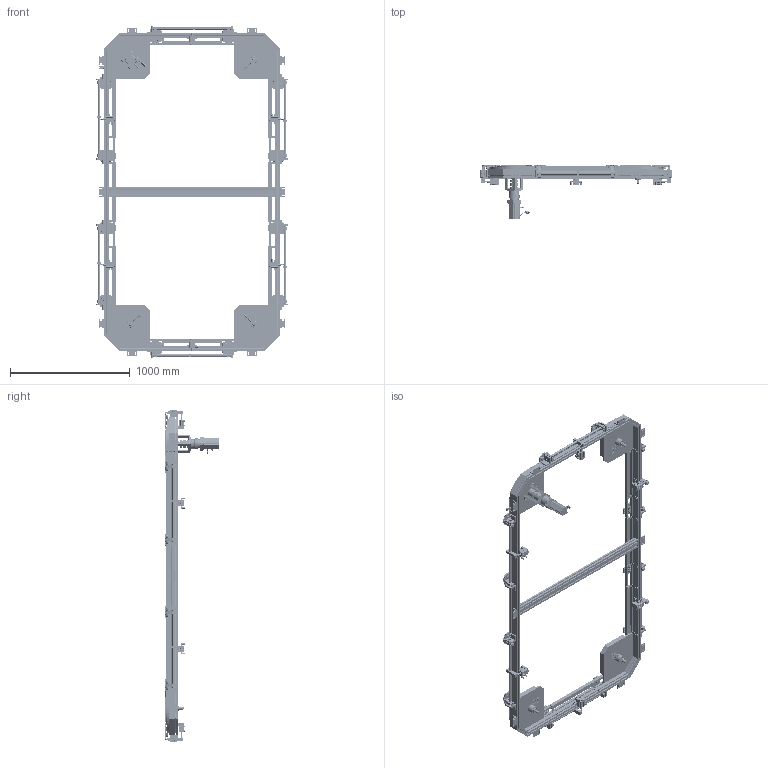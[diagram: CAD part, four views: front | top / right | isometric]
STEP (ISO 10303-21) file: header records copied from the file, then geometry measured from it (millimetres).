
FILE_DESCRIPTION (( 'STEP AP214' ), '1' );
FILE_NAME ('HSD-400撻倛倰第蟈沭.STEP', '2021-06-07T00:26:06', ( '' ), ( '' ), 'SwSTEP 2.0', 'SolidWorks 2016', '' );
FILE_SCHEMA (( 'AUTOMOTIVE_DESIGN' ));
Length unit declared in the file: millimetre
Products named in the file (64): HSD-幗謫蚳蚚蹟譫; HSD-桲踡輸; HSD-桲踡蜇璃; HSD-隅弇傻啊旋; HSD-隅弇郪赶桉粣創-m8-30; HSD-U倰鎮湛盓殤; HSD-L倰嘐隅璃; 4080倰第撻倛酗晚400; HSD-幗謫蚳蚚菜え; 噩砃蟈謫滅誘欶; HSD-肮陑幗謫粣; HSD-ァ詰蟀諉邧嫉; HSD-400撻倛蟈沭GMP; HSD-薊粣ん; 4080型材矩形中间连接400; HSD-翋雄蟈謫44_05B; 4080倰第撻倛傻晚400; HSD-ァ詰粣創釱_BHLC6003ZZ-40-KCA; HSD-12A蟈沭-撻倛; HSD-蕾宒假蚾; HSD-44C翋雄蟈謫郪; HSD-桲踡蹟佪; HSD-植雄菁啣400; SC19-GAA04-LA1-4080倰第勤晚400; HSD-蟈謫翋雄粣6006; HSD-蟈沭蟀諉蜇璃; HSD-翋雄粣創釱6006; HSD-ぇ陑幗謫粣; HSD-眻寢1034; HSD-6006-2Z粣創; HSD-苤陬隅弇蜇璃; HSD-12A蟈羞; HSD-M27滅侂蹟譫; HSD-苤陬啣-400; HSD-蟈沭翋雄粣陑6006; HSD-菜え; HSD-幗謫; HSD-倰第邧隅弇蚾饜; HSD-肣杶; HSD-蟀諉標裝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
Assembly tree (134 placements, depth 4):
  HSD-400撻倛倰第蟈沭
    HSD-400撻倛蟈沭GMP
      HSD-眻寢2212  x2
      HSD-轻载环轨400-90°  x4
      HSD-400蟈沭苤陬  x12
        HSD-苤陬啣-400
        HSD-苤陬隅弇蜇璃
        HSD-幗謫
        HSD-菜え
        HSD-幗謫蚳蚚菜え
        HSD-幗謫蚳蚚蹟譫
        HSD-肮陑幗謫粣
        HSD-ぇ陑幗謫粣
        HSD-蟈沭蟀諉蜇璃
        HSD-苤陬蟈沭誘欶
        HSD-肣杶
        HSD-蚐碟
      HSD-眻寢1034  x2
    HSD-植雄菁啣400  x3
    HSD-400撻倛倰第郪
      SC19-GAA04-LA1-4080倰第勤晚400  x4
      4080倰第撻倛酗晚400  x2
      4080倰第撻倛傻晚400  x2
      4080型材矩形中间连接400
    HSD-蕾宒假蚾
      HSD-U倰鎮湛盓殤
      HSD-薊粣ん
      HSD-熬厒儂DAB90-L2
      HSD-萇儂750W
    HSD-倰第邧隅弇蚾饜  x6
      HSD-ァ詰粣創釱_BHLC6003ZZ-40-KCA
      HSD-啊旋蟀諉粣
      HSD-隅弇傻啊旋
      HSD-ァ詰蟀諉邧嫉
      HSD-蟀諉標裝
      HSD-ァ詰蟀諉粣
      HSD-6003粣創
      HSD-邧啊旋嫖粣674
      HSD-随动器16_KRV 168
      HSD-隅弇郪赶桉粣創-m8-30
      HSD-气缸_ACQ 32×20_ACQ 32×20-1
      HSD-ァ詰蟀諉等嫉
    HSD-L倰嘐隅璃  x10
    HSD-44C翋雄蟈謫郪  x4
      HSD-蟈謫翋雄粣6006
        HSD-蟈沭翋雄粣陑6006
        HSD-翋雄粣傷裔
        HSD-翋雄粣創釱6006
        HSD-M27滅侂蹟譫
        HSD-6006-2Z粣創  x2
        HSD-桲踡蹟佪
        HSD-桲踡蜇璃
        HSD-桲踡輸
      HSD-翋雄蟈謫44_05B
    HSD-蟈沭羞  x8
      HSD-12A蟈羞
      HSD-型材角铝链槽支板
    HSD-倰第覜茼羲壽郪
      HSD-覜茼羲壽盓殤
      HSD-E2B_S08LN04_WP_C1
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Bounding box: 1598 x 458.3 x 2776 mm (x, y, z)
Volume: 42440750 mm3; surface area: 13570072.2 mm2
Topology: 1137 solids, 1150 shells, 26167 faces, 65190 edges, 41433 vertices
Faces by surface type: plane 11083, cylinder 10061, bspline 2936, cone 1463, torus 597, sphere 27
Entity records: 161590 total; most frequent: CARTESIAN_POINT 49729, ORIENTED_EDGE 23024, DIRECTION 21673, EDGE_CURVE 11512, AXIS2_PLACEMENT_3D 8067, VERTEX_POINT 7550, LINE 5539, VECTOR 5539
